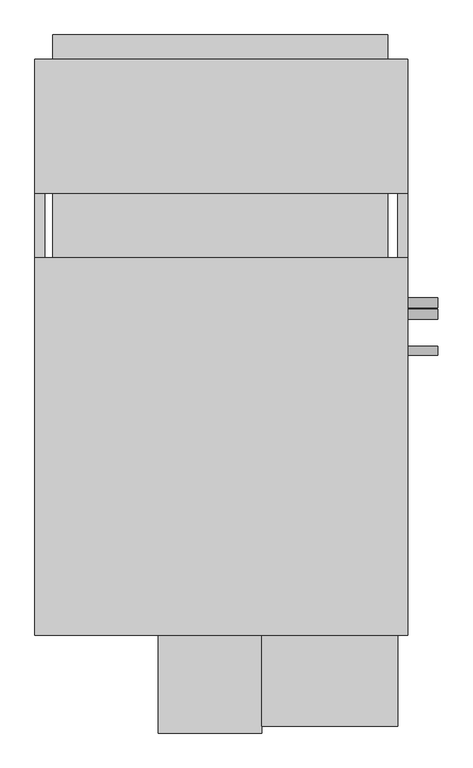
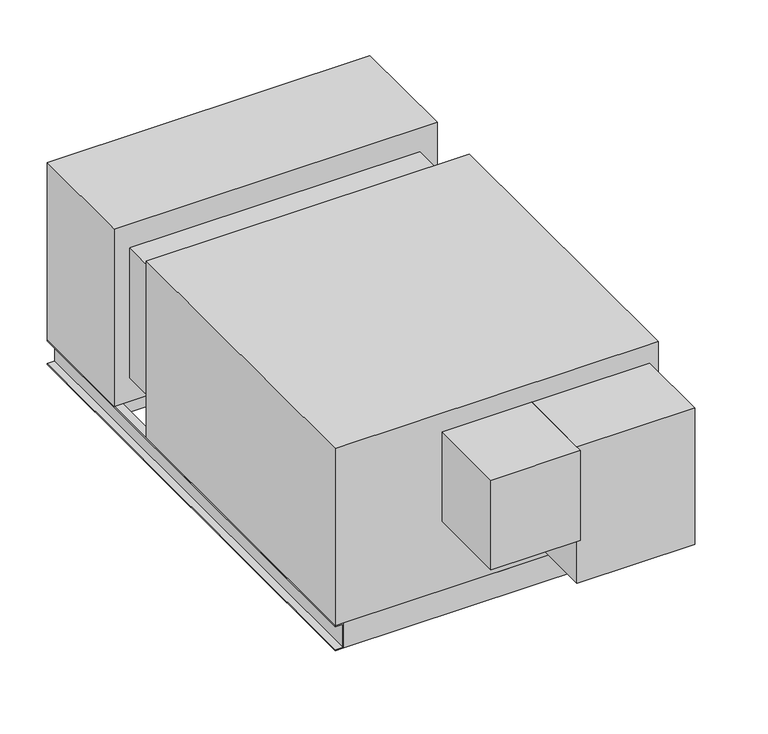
"""IFC4 building model written with IfcOpenShell, lengths in millimetres: proxy geometry, Horizontal_Direct_Drive_Blower_Coil_Unit_-_42DHA_-_CARRIER_-_2-Pipe_Cool-EHeat_NFilterR_W-MixingBox_RH_2022 : Size 10 - 460v/60Hz/3Ph - 8 Row 9.9kW LH."""

import ifcopenshell
import ifcopenshell.guid

model = None  # the IFC model being written
_history = None  # IfcOwnerHistory: only IFC2X3 demands one
_inside = {}  # id of a spatial element -> (the spatial element, [elements in it])
_under = {}  # id of a project, library or spatial element -> (it, [spatial elements below it])
_declared = {}  # id of a project -> (the project, [libraries it declares])
_typed = {}  # id of a type object -> (the type object, [elements of that type])
_made_of = {}  # id of a material, layer set ... -> (it, [elements and type objects made of it])


def new_model(schema):
    """Start an empty IFC model of exactly this schema.

    Asked for "IFC4X3", IfcOpenShell would pick the latest addendum, in which some entities
    have other attributes; the version numbers below select the first issue.
    IFC2X3 requires an IfcOwnerHistory on every rooted entity: one is made here for all.
    """
    global model, _history
    if schema == "IFC4X3":
        model = ifcopenshell.file(schema_version=(4, 3, 0, 0))
    else:
        model = ifcopenshell.file(schema=schema)
    _inside.clear()
    _under.clear()
    _declared.clear()
    _typed.clear()
    _made_of.clear()
    _history = None
    if model.schema == "IFC2X3":
        org = make("IfcOrganization", Name="unknown")
        user = make(
            "IfcPersonAndOrganization",
            ThePerson=make("IfcPerson", FamilyName="unknown"),
            TheOrganization=org,
        )
        app = make(
            "IfcApplication",
            ApplicationDeveloper=org,
            Version="unknown",
            ApplicationFullName="unknown",
            ApplicationIdentifier="unknown",
        )
        _history = make(
            "IfcOwnerHistory",
            OwningUser=user,
            OwningApplication=app,
            ChangeAction="ADDED",
            CreationDate=0,
        )
    return model


def make(cls, **values):
    """One entity of the class cls with the attributes given. An attribute that is None is left unset."""
    return model.create_entity(
        cls, **{name: value for name, value in values.items() if value is not None}
    )


def rooted(cls, **values):
    """An entity with a GlobalId (a new one), such as an element, a storey or a relation."""
    return make(cls, GlobalId=ifcopenshell.guid.new(), OwnerHistory=_history, **values)


def si_unit(unit_type, name, prefix=None):
    """IfcSIUnit, for example si_unit("LENGTHUNIT", "METRE", prefix="MILLI")."""
    return make("IfcSIUnit", UnitType=unit_type, Prefix=prefix, Name=name)


def assignment(units):
    """IfcUnitAssignment: the units of a project."""
    return None if units is None else make("IfcUnitAssignment", Units=units)


def point(xyz):
    """IfcCartesianPoint."""
    return None if xyz is None else make("IfcCartesianPoint", Coordinates=xyz)


def direction(xyz):
    """IfcDirection."""
    return None if xyz is None else make("IfcDirection", DirectionRatios=xyz)


def frame(location, z_axis=None, x_axis=None):
    """IfcAxis2Placement3D, a coordinate frame: its origin and axes. An axis left out is left unset."""
    return make(
        "IfcAxis2Placement3D",
        Location=point(location),
        Axis=direction(z_axis),
        RefDirection=direction(x_axis),
    )


def frame_2d(location, x_axis=None):
    """IfcAxis2Placement2D, a coordinate frame in the plane: its origin and x axis."""
    return make(
        "IfcAxis2Placement2D", Location=point(location), RefDirection=direction(x_axis)
    )


def origin():
    """The frame at (0, 0, 0) with its axes left unset."""
    return frame((0.0, 0.0, 0.0))


def place(relative_to, where):
    """IfcLocalPlacement: puts the frame where relative to a parent placement (None: the world)."""
    return make(
        "IfcLocalPlacement", PlacementRelTo=relative_to, RelativePlacement=where
    )


def context(
    kind, dimensions, precision=None, world=None, true_north=None, identifier=None
):
    """IfcGeometricRepresentationContext, for example the 3D "Model" context."""
    return make(
        "IfcGeometricRepresentationContext",
        ContextIdentifier=identifier,
        ContextType=kind,
        CoordinateSpaceDimension=dimensions,
        Precision=precision,
        WorldCoordinateSystem=world,
        TrueNorth=true_north,
    )


def project(units=None, contexts=None):
    """IfcProject with its units and contexts."""
    return rooted(
        "IfcProject",
        Name="project",
        RepresentationContexts=contexts,
        UnitsInContext=assignment(units),
    )


def spatial(cls, under=None, at=None, **own):
    """A site, building, storey or space (cls), placed at a placement, below another one or the project."""
    s = rooted(cls, ObjectPlacement=at, **own)
    if under is not None:
        _under.setdefault(under.id(), (under, []))[1].append(s)
    return s


def polyline(points):
    """IfcPolyline through the points."""
    return make("IfcPolyline", Points=[point(p) for p in points])


def circle_curve(where, radius):
    """IfcCircle in the frame where."""
    return make("IfcCircle", Position=where, Radius=radius)


def trimmed(basis, trim1, trim2, sense, master):
    """IfcTrimmedCurve: the piece of a basis curve between two trims."""
    return make(
        "IfcTrimmedCurve",
        BasisCurve=basis,
        Trim1=trim1,
        Trim2=trim2,
        SenseAgreement=sense,
        MasterRepresentation=master,
    )


def segment(curve, same_sense, transition):
    """IfcCompositeCurveSegment."""
    return make(
        "IfcCompositeCurveSegment",
        Transition=transition,
        SameSense=same_sense,
        ParentCurve=curve,
    )


def composite_curve(segments, self_intersect=None):
    """IfcCompositeCurve: segments joined end to end."""
    return make("IfcCompositeCurve", Segments=segments, SelfIntersect=self_intersect)


def outline(outer, holes=None, kind="AREA"):
    """IfcArbitraryClosedProfileDef: a profile drawn as a closed curve; with holes, ...WithVoids."""
    if holes is None:
        return make("IfcArbitraryClosedProfileDef", ProfileType=kind, OuterCurve=outer)
    return make(
        "IfcArbitraryProfileDefWithVoids",
        ProfileType=kind,
        OuterCurve=outer,
        InnerCurves=holes,
    )


def extrude(swept, where, along, depth):
    """IfcExtrudedAreaSolid: the profile swept, set in the frame where, extruded along a direction by depth."""
    return make(
        "IfcExtrudedAreaSolid",
        SweptArea=swept,
        Position=where,
        ExtrudedDirection=direction(along),
        Depth=depth,
    )


def shape(context_of_items, identifier, shape_type, items):
    """IfcShapeRepresentation: the items that make up one representation, for example the "Body"."""
    return make(
        "IfcShapeRepresentation",
        ContextOfItems=context_of_items,
        RepresentationIdentifier=identifier,
        RepresentationType=shape_type,
        Items=items,
    )


def source(mapping_origin, context_of_items, identifier, shape_type, items):
    """IfcRepresentationMap: a shape defined once, which mapped items show again and again."""
    return make(
        "IfcRepresentationMap",
        MappingOrigin=mapping_origin,
        MappedRepresentation=shape(context_of_items, identifier, shape_type, items),
    )


def transform(
    local_origin,
    x_axis=None,
    y_axis=None,
    z_axis=None,
    scale=None,
    scale2=None,
    scale3=None,
    uniform=True,
):
    """IfcCartesianTransformationOperator3D, or its non-uniform kind. x_axis, y_axis, z_axis: its Axis1, 2, 3."""
    if uniform:
        return make(
            "IfcCartesianTransformationOperator3D",
            Axis1=direction(x_axis),
            Axis2=direction(y_axis),
            LocalOrigin=point(local_origin),
            Scale=scale,
            Axis3=direction(z_axis),
        )
    return make(
        "IfcCartesianTransformationOperator3DnonUniform",
        Axis1=direction(x_axis),
        Axis2=direction(y_axis),
        LocalOrigin=point(local_origin),
        Scale=scale,
        Axis3=direction(z_axis),
        Scale2=scale2,
        Scale3=scale3,
    )


def mapped(mapping_source, mapping_target):
    """IfcMappedItem: shows the shape of a source again, moved by a transform."""
    return make(
        "IfcMappedItem", MappingSource=mapping_source, MappingTarget=mapping_target
    )


def made_of(thing, what):
    """Note that an element or type object is made of a material, layer set ...; save() writes the relation."""
    if what is not None:
        _made_of.setdefault(what.id(), (what, []))[1].append(thing)
    return thing


def element(
    cls,
    number,
    at=None,
    inside=None,
    cuts=None,
    type_object=None,
    material=None,
    context=None,
    identifier="Body",
    shape_type=None,
    held_by="IfcProductDefinitionShape",
    body=None,
    shapes=None,
    **own,
):
    """One element of the class cls, such as IfcWall. Its Tag is "e" and its number.

    at: its placement. inside: the storey or other place that contains it. cuts: it is an
    opening in that element (IfcRelVoidsElement). A single representation is given by context,
    identifier, shape_type and body (its items); several are given by shapes. held_by: the class
    of the entity that holds the representations. save() writes the other relations.
    """
    e = rooted(cls, Tag="e%d" % number, ObjectPlacement=at, **own)
    if body is not None:
        shapes = [shape(context, identifier, shape_type, body)]
    if shapes is not None:
        e.Representation = make(held_by, Representations=shapes)
    if inside is not None:
        _inside.setdefault(inside.id(), (inside, []))[1].append(e)
    if cuts is not None:
        rooted(
            "IfcRelVoidsElement", RelatingBuildingElement=cuts, RelatedOpeningElement=e
        )
    if type_object is not None:
        _typed.setdefault(type_object.id(), (type_object, []))[1].append(e)
    return made_of(e, material)


def aggregate(whole, parts):
    """IfcRelAggregates: a whole, such as a stair, and the parts it consists of."""
    return rooted("IfcRelAggregates", RelatingObject=whole, RelatedObjects=parts)


def save(model, path):
    """Write the relations noted so far, then the file.

    IfcRelAggregates (storeys below a building ...), IfcRelContainedInSpatialStructure (elements
    in a storey), IfcRelDefinesByType, IfcRelAssociatesMaterial and IfcRelDeclares: one each for
    every whole, place, type object, material and project.
    """
    for whole, parts in _under.values():
        aggregate(whole, parts)
    for where, things in _inside.values():
        rooted(
            "IfcRelContainedInSpatialStructure",
            RelatedElements=things,
            RelatingStructure=where,
        )
    for kind, things in _typed.values():
        rooted("IfcRelDefinesByType", RelatedObjects=things, RelatingType=kind)
    for what, things in _made_of.values():
        rooted("IfcRelAssociatesMaterial", RelatedObjects=things, RelatingMaterial=what)
    for by, libraries in _declared.values():
        rooted("IfcRelDeclares", RelatingContext=by, RelatedDefinitions=libraries)
    model.write(path)


def mechanical_equipment_1eb6b717(model_context):
    return source(origin(), model_context, "Body", "SweptSolid", [
        extrude(outline(polyline([(-177.8, 890.905), (-177.8, 687.705), (-1022.35, 687.705), (-1022.35, 890.905), (-177.8, 890.905)])), frame((0.0, 0.0, -607.06), z_axis=(0.0, 0.0, 1.0), x_axis=(1.0, 0.0, 0.0)), (0.0, 0.0, 1.0), 60.96),
        extrude(outline(polyline([(-1022.35, 1053.465), (-177.8, 1053.465), (-177.8, 992.505), (-1022.35, 992.505), (-1022.35, 1053.465)])), frame((0.0, 0.0, -279.4), z_axis=(0.0, 0.0, 1.0), x_axis=(1.0, 0.0, 0.0)), (0.0, 0.0, 1.0), 203.2),
        extrude(outline(polyline([(-127.0, 992.505), (-127.0, 654.05), (-1066.8, 654.05), (-1066.8, 992.505), (-127.0, 992.505)])), frame((0.0, 0.0, -546.1), z_axis=(0.0, 0.0, 1.0), x_axis=(1.0, 0.0, 0.0)), (0.0, 0.0, 1.0), 546.1),
        extrude(outline(polyline([(-152.4, -434.975), (-152.4, -460.375), (-1041.4, -460.375), (-1041.4, -434.975), (-152.4, -434.975)])), frame((0.0, 0.0, -622.3), z_axis=(0.0, 0.0, 1.0), x_axis=(1.0, 0.0, 0.0)), (0.0, 0.0, 1.0), 76.2),
        extrude(outline(polyline([(-152.4, 992.505), (-152.4, 967.105), (-1041.4, 967.105), (-1041.4, 992.505), (-152.4, 992.505)])), frame((0.0, 0.0, -622.3), z_axis=(0.0, 0.0, 1.0), x_axis=(1.0, 0.0, 0.0)), (0.0, 0.0, 1.0), 76.2),
        extrude(outline(polyline([(-546.1, -1041.4), (-546.1, -1066.8), (-549.275, -1066.8), (-549.275, -1044.575), (-619.125, -1044.575), (-619.125, -1066.8), (-622.3, -1066.8), (-622.3, -1041.4), (-546.1, -1041.4)])), frame((0.0, -460.375, 0.0), z_axis=(0.0, 1.0, 0.0), x_axis=(0.0, 0.0, 1.0)), (0.0, 0.0, 1.0), 1452.88),
        extrude(outline(polyline([(-546.1, -152.4), (-622.3, -152.4), (-622.3, -127.0), (-619.125, -127.0), (-619.125, -149.225), (-549.275, -149.225), (-549.275, -127.0), (-546.1, -127.0), (-546.1, -152.4)])), frame((0.0, -460.375, 0.0), z_axis=(0.0, 1.0, 0.0), x_axis=(0.0, 0.0, 1.0)), (0.0, 0.0, 1.0), 1452.88),
        extrude(outline(composite_curve([segment(trimmed(circle_curve(frame_2d((377.825, -177.8)), 12.7), [point((390.525, -177.8))], [point((365.125, -177.8))], False, "CARTESIAN"), True, "CONTINUOUS"), segment(trimmed(circle_curve(frame_2d((377.825, -177.8)), 12.7), [point((365.125, -177.8))], [point((390.525, -177.8))], False, "CARTESIAN"), True, "CONTINUOUS")], self_intersect=False)), frame((-127.0, 0.0, 0.0), z_axis=(1.0, 0.0, 0.0), x_axis=(0.0, 1.0, 0.0)), (0.0, 0.0, 1.0), 76.2),
        extrude(outline(composite_curve([segment(trimmed(circle_curve(frame_2d((348.9715397, -419.1)), 12.7), [point((361.6715397, -419.1))], [point((336.2715397, -419.1))], False, "CARTESIAN"), True, "CONTINUOUS"), segment(trimmed(circle_curve(frame_2d((348.9715397, -419.1)), 12.7), [point((336.2715397, -419.1))], [point((361.6715397, -419.1))], False, "CARTESIAN"), True, "CONTINUOUS")], self_intersect=False)), frame((-127.0, 0.0, 0.0), z_axis=(1.0, 0.0, 0.0), x_axis=(0.0, 1.0, 0.0)), (0.0, 0.0, 1.0), 76.2),
        extrude(outline(composite_curve([segment(trimmed(circle_curve(frame_2d((257.175, -501.65)), 11.1125), [point((268.2875, -501.65))], [point((246.0625, -501.65))], False, "CARTESIAN"), True, "CONTINUOUS"), segment(trimmed(circle_curve(frame_2d((257.175, -501.65)), 11.1125), [point((246.0625, -501.65))], [point((268.2875, -501.65))], False, "CARTESIAN"), True, "CONTINUOUS")], self_intersect=False)), frame((-127.0, 0.0, 0.0), z_axis=(1.0, 0.0, 0.0), x_axis=(0.0, 1.0, 0.0)), (0.0, 0.0, 1.0), 76.2),
        extrude(outline(polyline([(-127.0, 492.125), (-127.0, -460.375), (-1066.8, -460.375), (-1066.8, 492.125), (-127.0, 492.125)])), frame((0.0, 0.0, -546.1), z_axis=(0.0, 0.0, 1.0), x_axis=(1.0, 0.0, 0.0)), (0.0, 0.0, 1.0), 546.1),
        extrude(outline(polyline([(-152.4, -688.975), (-495.3, -688.975), (-495.3, -460.375), (-152.4, -460.375), (-152.4, -688.975)])), frame((0.0, 0.0, -476.25), z_axis=(0.0, 0.0, 1.0), x_axis=(1.0, 0.0, 0.0)), (0.0, 0.0, 1.0), 419.1),
        extrude(outline(polyline([(-1022.35, 654.05), (-177.8, 654.05), (-177.8, 492.125), (-1022.35, 492.125), (-1022.35, 654.05)])), frame((0.0, 0.0, -473.075), z_axis=(0.0, 0.0, 1.0), x_axis=(1.0, 0.0, 0.0)), (0.0, 0.0, 1.0), 400.05),
        extrude(outline(polyline([(-495.3, -706.4375), (-755.65, -706.4375), (-755.65, -460.375), (-495.3, -460.375), (-495.3, -706.4375)])), frame((0.0, 0.0, -333.375), z_axis=(0.0, 0.0, 1.0), x_axis=(1.0, 0.0, 0.0)), (0.0, 0.0, 1.0), 276.225),
    ])


if __name__ == "__main__":
    model = new_model("IFC4")
    model_context = context("Model", 3, world=origin())
    ifc_project = project(units=[si_unit("LENGTHUNIT", "METRE", prefix="MILLI")], contexts=[model_context])
    site = spatial("IfcSite", under=ifc_project)
    building = spatial("IfcBuilding", under=site)
    placement = place(None, origin())
    mechanical_equipment_shape = mechanical_equipment_1eb6b717(model_context)
    element("IfcBuildingElementProxy", 1, Name="Horizontal_Direct_Drive_Blower_Coil_Unit_-_42DHA_-_CARRIER_-_2-Pipe_Cool-EHeat_NFilterR_W-MixingBox_RH_2022 : Size 10 - 460v/60Hz/3Ph - 8 Row 9.9kW LH", ObjectType="Horizontal_Direct_Drive_Blower_Coil_Unit_-_42DHA_-_CARRIER_-_2-Pipe_Cool-EHeat_NFilterR_W-MixingBox_RH_2022 : Size 10 - 460v/60Hz/3Ph - 8 Row 9.9kW LH", at=placement, inside=building, context=model_context, shape_type="MappedRepresentation", body=[
        mapped(mechanical_equipment_shape, transform((0.0, 0.0, 0.0), x_axis=(1.0, 0.0, 0.0), y_axis=(0.0, 1.0, 0.0), z_axis=(0.0, 0.0, 1.0))),
    ])
    save(model, "model.ifc")
